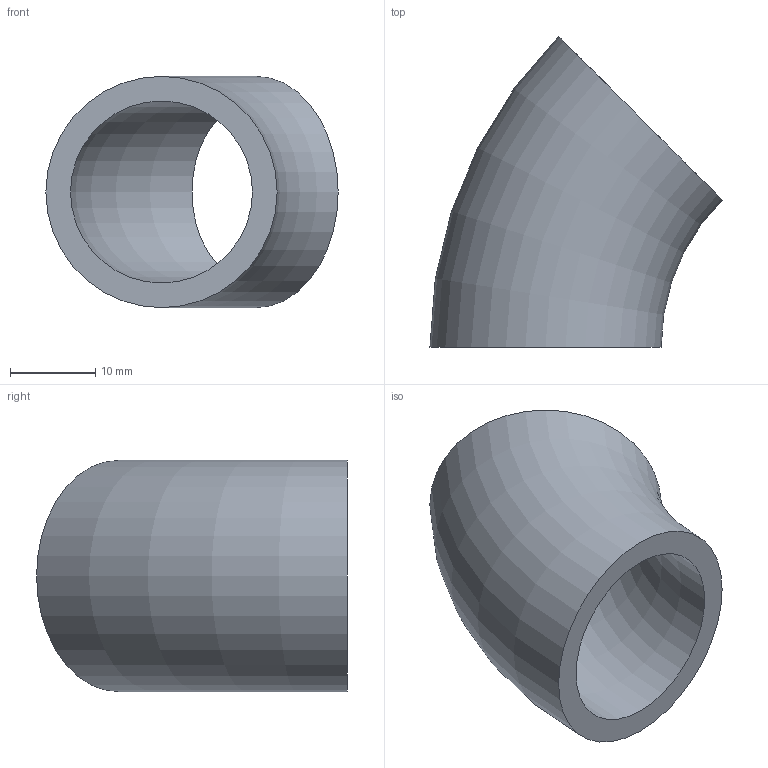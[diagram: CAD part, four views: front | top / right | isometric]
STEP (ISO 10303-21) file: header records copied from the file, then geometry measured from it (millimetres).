
FILE_DESCRIPTION(/* description */ (''),/* implementation_level */ '2;1');
FILE_NAME(/* name */ 'C:\Users\D\Documents\Inventor\HP\JIS\配管\エルボ ロング 45°\Sch40\Elbow45-long-20A-Sch40.stp',/* time_stamp */ '2022-06-08T17:01:55+09:00',/* author */ ('D'),/* organization */ (''),/* preprocessor_version */ 'ST-DEVELOPER v18',/* originating_system */ 'Autodesk Inventor 2020',/* authorisation */ '');
FILE_SCHEMA (('AUTOMOTIVE_DESIGN { 1 0 10303 214 3 1 1 }','AP242_MANAGED_MODEL_BASED_3D_ENGINEERING_MIM_LF { 1 0 10303 442 1 1 4 }'));
Length unit declared in the file: millimetre
Products named in the file (1): Elbow-long-90-15A-SGP
Bounding box: 34.38 x 36.56 x 27.2 mm (x, y, z)
Volume: 6624.7 mm3; surface area: 5011.6 mm2
Topology: 1 solids, 1 shells, 4 faces, 10 edges, 8 vertices
Faces by surface type: torus 2, plane 2
Entity records: 181 total; most frequent: DIRECTION 30, CARTESIAN_POINT 23, ORIENTED_EDGE 20, AXIS2_PLACEMENT_3D 15, CIRCLE 10, EDGE_CURVE 10, VERTEX_POINT 8, EDGE_LOOP 6
